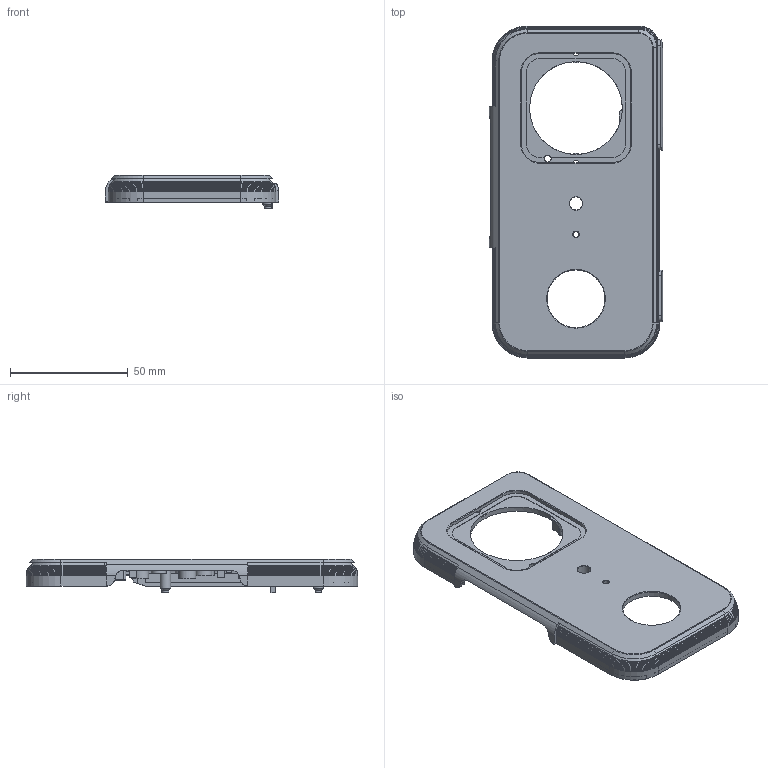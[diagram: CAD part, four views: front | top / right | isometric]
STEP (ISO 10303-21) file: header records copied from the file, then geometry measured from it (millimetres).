
FILE_DESCRIPTION(('Open CASCADE Model'),'2;1');
FILE_NAME('Front','2026-09-21T22:33:42',('Author'),('Open CASCADE'), 'Open CASCADE STEP processor 7.9','build123d','Unknown');
FILE_SCHEMA(('AUTOMOTIVE_DESIGN { 1 0 10303 214 1 1 1 1 }'));
Length unit declared in the file: millimetre
Products named in the file (2): Front
Assembly tree (1 placements, depth 2):
  Front
    Front
Bounding box: 73.5 x 140.95 x 14.27 mm (x, y, z)
Volume: 26125.3 mm3; surface area: 29104 mm2
Topology: 1 solids, 1 shells, 1200 faces, 3467 edges, 2242 vertices
Faces by surface type: plane 636, cylinder 264, cone 165, sphere 98, torus 31, bspline 5, revolution 1
Full cylindrical faces by diameter (mm): 2.3 x4, 2.4 x3, 2.5 x4, 2.6 x6, 2.9 x22, 5.5 x1, 5.6 x1, 6.4 x5, 6.5 x1, 7.2 x4, 8 x2, 9.4 x1, 24.5 x1, 34.6 x1, 39.4 x1
Entity records: 42402 total; most frequent: CARTESIAN_POINT 10517, ORIENTED_EDGE 6874, DIRECTION 6728, EDGE_CURVE 3437, AXIS2_PLACEMENT_3D 2528, VERTEX_POINT 2242, LINE 1671, VECTOR 1671
